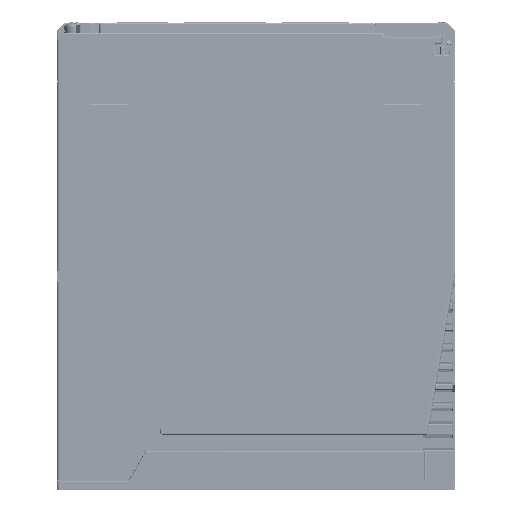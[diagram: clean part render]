
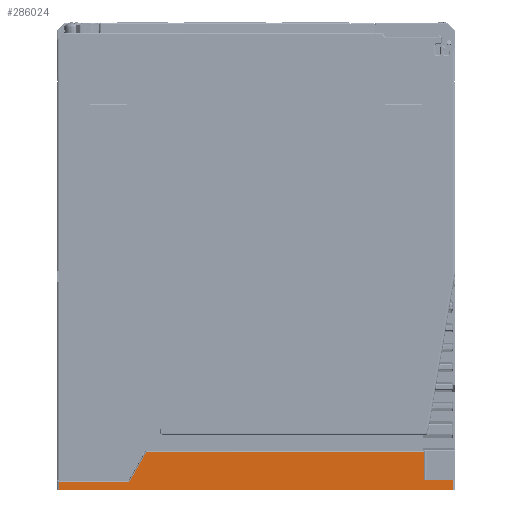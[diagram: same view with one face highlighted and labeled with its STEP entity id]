
A CAD part, front view. The second image highlights one B-rep face of the part: STEP entity #286024.
In plain terms, the highlighted planar face has unit normal (0, -1, 0).
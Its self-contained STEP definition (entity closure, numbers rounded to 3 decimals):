
#272214=CARTESIAN_POINT('',(-120.0,-73.,0.0));
#272215=VERTEX_POINT('',#272214);
#272223=CARTESIAN_POINT('',(-120.0,-73.,3.3));
#272224=VERTEX_POINT('',#272223);
#272225=CARTESIAN_POINT('',(-120.0,-73.,0.0));
#272226=DIRECTION('',(0.0,0.0,1.0));
#272227=VECTOR('',#272226,3.3);
#272228=LINE('',#272225,#272227);
#272229=EDGE_CURVE('',#272215,#272224,#272228,.T.);
#272254=CARTESIAN_POINT('',(40.0,-73.0,0.0));
#272255=VERTEX_POINT('',#272254);
#272273=CARTESIAN_POINT('',(40.0,-73.0,4.0));
#272274=VERTEX_POINT('',#272273);
#272282=CARTESIAN_POINT('',(40.0,-73.0,4.0));
#272283=DIRECTION('',(0.0,0.0,-1.0));
#272284=VECTOR('',#272283,4.0);
#272285=LINE('',#272282,#272284);
#272286=EDGE_CURVE('',#272274,#272255,#272285,.T.);
#275833=CARTESIAN_POINT('',(28.5,-73.0,15.496));
#275834=VERTEX_POINT('',#275833);
#275842=CARTESIAN_POINT('',(28.5,-73.0,15.488));
#275843=VERTEX_POINT('',#275842);
#275844=CARTESIAN_POINT('',(28.,-73.0,15.488));
#275845=DIRECTION('',(0.0,1.0,0.0));
#275846=DIRECTION('',(0.,0.0,1.0));
#275847=AXIS2_PLACEMENT_3D('',#275844,#275845,#275846);
#275848=ELLIPSE('',#275847,0.5,0.5);
#275849=EDGE_CURVE('',#275834,#275843,#275848,.T.);
#275905=CARTESIAN_POINT('',(-84.542,-73.,15.496));
#275906=VERTEX_POINT('',#275905);
#275914=CARTESIAN_POINT('',(-84.542,-73.,15.496));
#275915=DIRECTION('',(1.0,0.0,0.0));
#275916=VECTOR('',#275915,113.042);
#275917=LINE('',#275914,#275916);
#275918=EDGE_CURVE('',#275906,#275834,#275917,.T.);
#276010=CARTESIAN_POINT('',(-92.09,-73.,3.3));
#276011=VERTEX_POINT('',#276010);
#276034=CARTESIAN_POINT('',(-120.0,-73.,3.3));
#276035=DIRECTION('',(1.0,0.0,0.0));
#276036=VECTOR('',#276035,27.91);
#276037=LINE('',#276034,#276036);
#276038=EDGE_CURVE('',#272224,#276011,#276037,.T.);
#276055=CARTESIAN_POINT('',(-91.222,-73.,3.804));
#276056=VERTEX_POINT('',#276055);
#276064=CARTESIAN_POINT('',(-91.222,-73.,3.804));
#276065=DIRECTION('',(0.496,0.0,0.868));
#276066=VECTOR('',#276065,13.466);
#276067=LINE('',#276064,#276066);
#276068=EDGE_CURVE('',#276056,#275906,#276067,.T.);
#281021=CARTESIAN_POINT('',(40.0,-73.0,0.0));
#281022=DIRECTION('',(-1.0,0.0,0.0));
#281023=VECTOR('',#281022,160.0);
#281024=LINE('',#281021,#281023);
#281025=EDGE_CURVE('',#272255,#272215,#281024,.T.);
#283263=CARTESIAN_POINT('',(-92.09,-73.,4.3));
#283264=DIRECTION('',(0.0,-1.0,0.0));
#283265=DIRECTION('',(0.502,0.0,-0.865));
#283266=AXIS2_PLACEMENT_3D('',#283263,#283264,#283265);
#283267=CIRCLE('',#283266,1.);
#283268=EDGE_CURVE('',#276011,#276056,#283267,.T.);
#283425=CARTESIAN_POINT('',(28.5,-73.0,4.0));
#283426=VERTEX_POINT('',#283425);
#283427=CARTESIAN_POINT('',(28.5,-73.0,4.0));
#283428=DIRECTION('',(0.0,0.0,1.0));
#283429=VECTOR('',#283428,11.488);
#283430=LINE('',#283427,#283429);
#283431=EDGE_CURVE('',#283426,#275843,#283430,.T.);
#286002=CARTESIAN_POINT('',(41.,-73.0,0.0));
#286003=DIRECTION('',(0.0,-1.0,0.0));
#286004=DIRECTION('',(0.0,0.0,-1.0));
#286005=AXIS2_PLACEMENT_3D('',#286002,#286003,#286004);
#286006=PLANE('',#286005);
#286007=ORIENTED_EDGE('',*,*,#276038,.F.);
#286008=ORIENTED_EDGE('',*,*,#272229,.F.);
#286009=ORIENTED_EDGE('',*,*,#281025,.F.);
#286010=ORIENTED_EDGE('',*,*,#272286,.F.);
#286011=CARTESIAN_POINT('',(40.0,-73.0,4.0));
#286012=DIRECTION('',(-1.0,0.0,0.0));
#286013=VECTOR('',#286012,11.5);
#286014=LINE('',#286011,#286013);
#286015=EDGE_CURVE('',#272274,#283426,#286014,.T.);
#286016=ORIENTED_EDGE('',*,*,#286015,.T.);
#286017=ORIENTED_EDGE('',*,*,#283431,.T.);
#286018=ORIENTED_EDGE('',*,*,#275849,.F.);
#286019=ORIENTED_EDGE('',*,*,#275918,.F.);
#286020=ORIENTED_EDGE('',*,*,#276068,.F.);
#286021=ORIENTED_EDGE('',*,*,#283268,.F.);
#286022=EDGE_LOOP('',(#286007,#286008,#286009,#286010,#286016,#286017,#286018,#286019,#286020,#286021));
#286023=FACE_OUTER_BOUND('',#286022,.T.);
#286024=ADVANCED_FACE('',(#286023),#286006,.T.);
